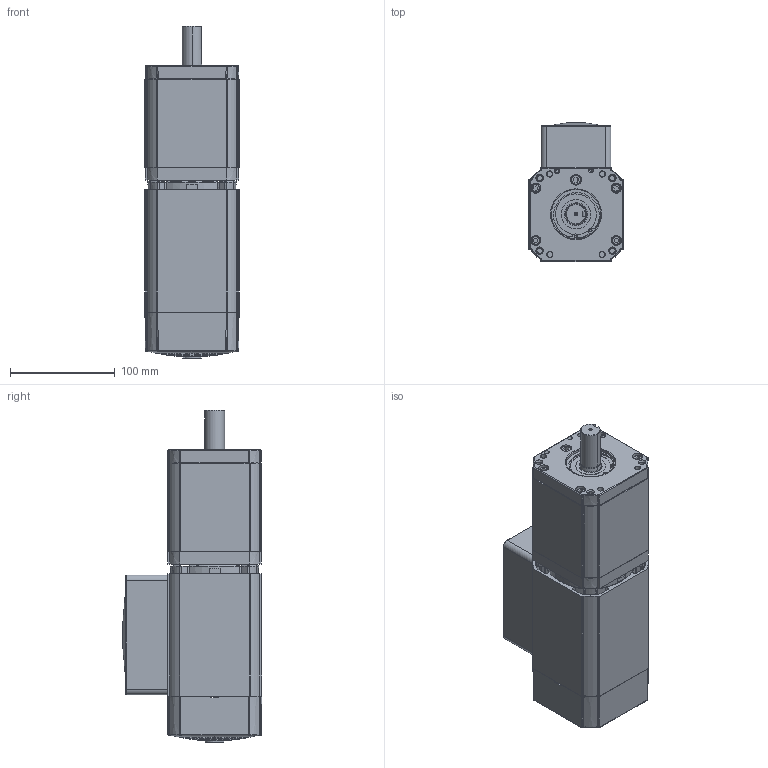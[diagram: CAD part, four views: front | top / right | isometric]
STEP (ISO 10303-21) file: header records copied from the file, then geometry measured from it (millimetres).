
FILE_DESCRIPTION (( 'STEP AP203' ), '1' );
FILE_NAME ('AC8040FC-PL7300_1S.STEP', '2008-07-01T20:51:52', ( 'eng-rjs' ), ( 'groschopp' ), 'SwSTEP 2.0', 'SolidWorks 2008', '' );
FILE_SCHEMA (( 'CONFIG_CONTROL_DESIGN' ));
Length unit declared in the file: inch
Products named in the file (1): AC8040FC-PL7300_1S
Bounding box: 90.25 x 133.49 x 317.25 mm (x, y, z)
Surface area: 220308 mm2 (no closed solid volume)
Topology: 0 solids, 35 shells, 1118 faces, 3666 edges, 2527 vertices
Faces by surface type: plane 649, cylinder 262, cone 79, bspline 72, torus 45, sphere 11
Entity records: 43080 total; most frequent: CARTESIAN_POINT 11036, DIRECTION 7154, ORIENTED_EDGE 5963, EDGE_CURVE 3636, AXIS2_PLACEMENT_3D 2790, VERTEX_POINT 2520, CIRCLE 1743, LINE 1574
